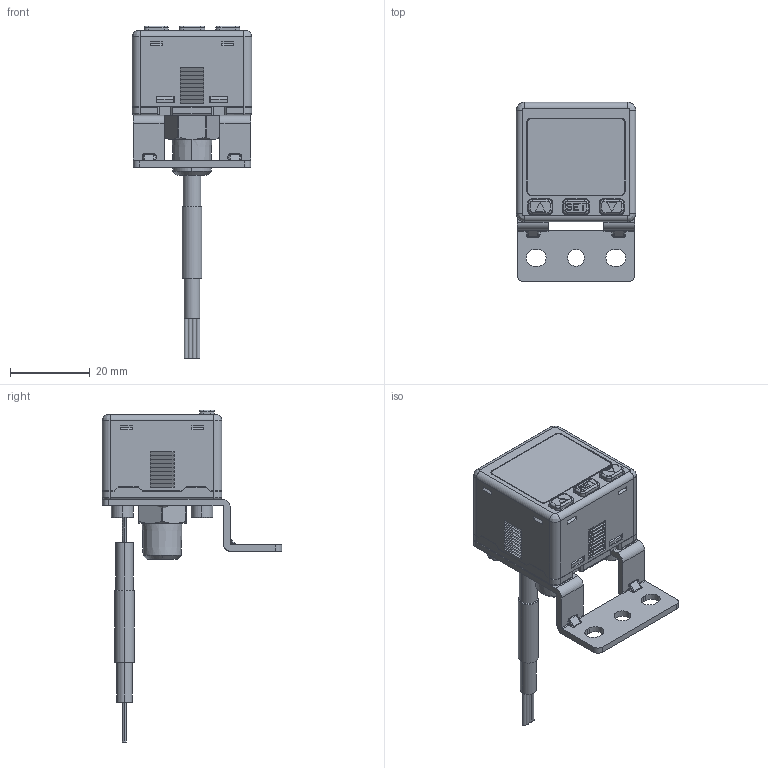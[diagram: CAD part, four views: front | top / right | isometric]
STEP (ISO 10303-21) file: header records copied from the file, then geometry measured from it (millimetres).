
FILE_DESCRIPTION((''),'2;1');
FILE_NAME('KP47_BT-14','2024-12-13T',('tommy'),(''),'CREO PARAMETRIC BY PTC INC, 2014500','CREO PARAMETRIC BY PTC INC, 2014500','');
FILE_SCHEMA(('CONFIG_CONTROL_DESIGN'));
Length unit declared in the file: millimetre
Products named in the file (1): KP47_BT-14
Bounding box: 30 x 45 x 83.35 mm (x, y, z)
Volume: 22428.5 mm3; surface area: 8984.5 mm2
Topology: 2 solids, 4 shells, 1042 faces, 2721 edges, 1688 vertices
Faces by surface type: plane 658, cylinder 216, cone 80, bspline 61, torus 27
Entity records: 40836 total; most frequent: CARTESIAN_POINT 15797, ORIENTED_EDGE 5434, DIRECTION 4826, EDGE_CURVE 2717, VECTOR 1902, LINE 1902, VERTEX_POINT 1688, AXIS2_PLACEMENT_3D 1462
